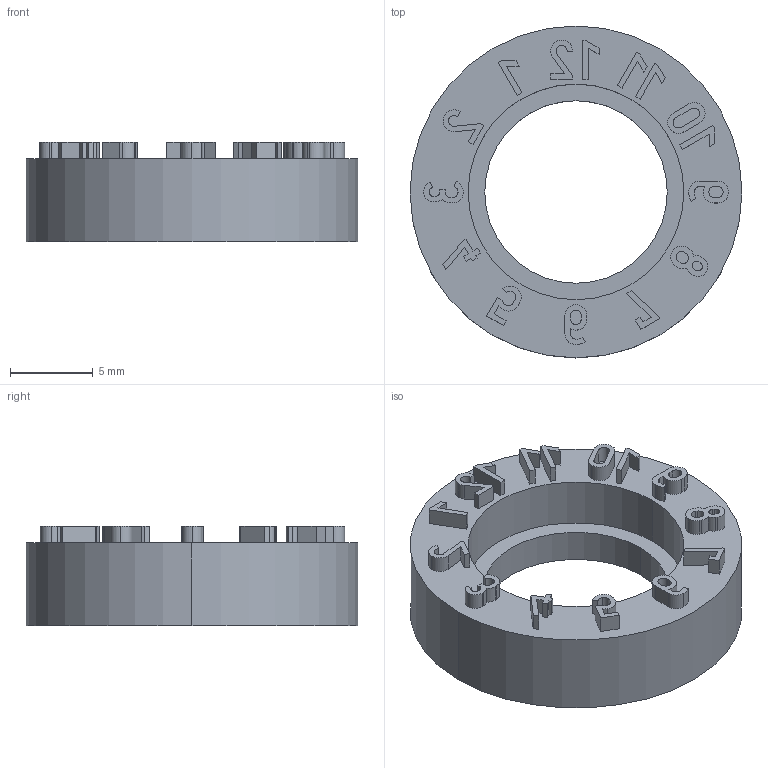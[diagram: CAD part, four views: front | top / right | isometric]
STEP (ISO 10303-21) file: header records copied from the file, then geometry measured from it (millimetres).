
FILE_DESCRIPTION (( 'STEP AP203' ), '1' );
FILE_NAME ('DLSR20.step', '2022-03-19T03:07:44', ( 'Microsoft Corporation' ), ( 'MS' ), 'SwSTEP 2.0', 'SolidWorks 2019', '' );
FILE_SCHEMA (( 'CONFIG_CONTROL_DESIGN' ));
Length unit declared in the file: inch
Products named in the file (1): DLSR20
Bounding box: 20 x 20 x 6 mm (x, y, z)
Volume: 1003.1 mm3; surface area: 1074.8 mm2
Topology: 1 solids, 1 shells, 216 faces, 579 edges, 386 vertices
Faces by surface type: plane 138, cylinder 78
Entity records: 6842 total; most frequent: CARTESIAN_POINT 1182, DIRECTION 1169, ORIENTED_EDGE 1158, EDGE_CURVE 579, VECTOR 423, LINE 423, VERTEX_POINT 386, AXIS2_PLACEMENT_3D 373
